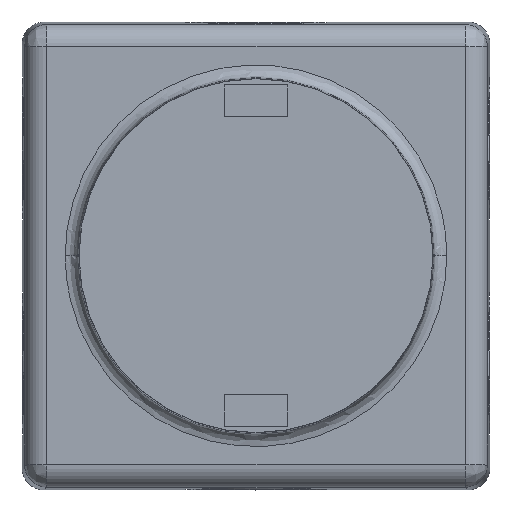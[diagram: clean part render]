
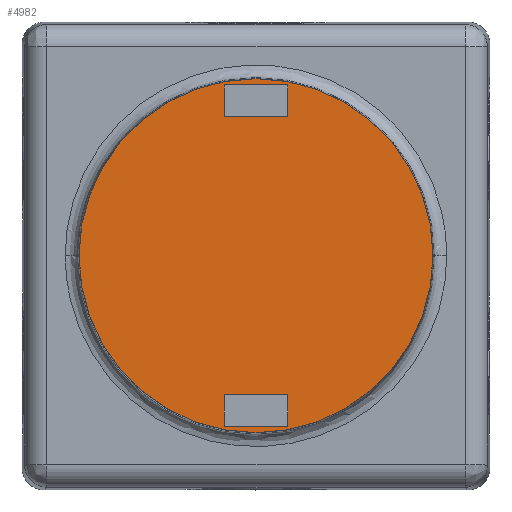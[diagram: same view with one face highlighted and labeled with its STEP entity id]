
A CAD part, top view. The second image highlights one B-rep face of the part: STEP entity #4982.
In plain terms, the highlighted planar face has unit normal (0, 0, 1) as drawn and (-1, 0, 0) by its records, which use the part's own axes.
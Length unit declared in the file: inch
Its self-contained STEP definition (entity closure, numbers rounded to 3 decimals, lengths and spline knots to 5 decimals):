
#77 = EDGE_CURVE ( 'NONE', #11966, #2711, #20078, .T. ) ;
#146 = VECTOR ( 'NONE', #16051, 39.37008 ) ;
#341 = CARTESIAN_POINT ( 'NONE',  ( 0., -0.875, 0. ) ) ;
#431 = ORIENTED_EDGE ( 'NONE', *, *, #7490, .T. ) ;
#706 = ORIENTED_EDGE ( 'NONE', *, *, #10727, .T. ) ;
#976 = AXIS2_PLACEMENT_3D ( 'NONE', #341, #9751, #15246 ) ;
#1111 = CARTESIAN_POINT ( 'NONE',  ( 0., 0., 0. ) ) ;
#1245 = ORIENTED_EDGE ( 'NONE', *, *, #77, .T. ) ;
#1532 = CARTESIAN_POINT ( 'NONE',  ( 0., -1.375, 0. ) ) ;
#2431 = CARTESIAN_POINT ( 'NONE',  ( 0., -0.875, 0.3125 ) ) ;
#2711 = VERTEX_POINT ( 'NONE', #10349 ) ;
#3340 = VERTEX_POINT ( 'NONE', #10627 ) ;
#3555 = ORIENTED_EDGE ( 'NONE', *, *, #20134, .T. ) ;
#3626 = VECTOR ( 'NONE', #15354, 39.37008 ) ;
#3823 = CARTESIAN_POINT ( 'NONE',  ( 0., -0.875, -0.3125 ) ) ;
#3932 = EDGE_LOOP ( 'NONE', ( #13226, #706 ) ) ;
#4047 = EDGE_CURVE ( 'NONE', #18520, #3340, #14664, .T. ) ;
#4227 = AXIS2_PLACEMENT_3D ( 'NONE', #1111, #17665, #19615 ) ;
#4557 = ORIENTED_EDGE ( 'NONE', *, *, #12548, .T. ) ;
#4671 = VERTEX_POINT ( 'NONE', #5181 ) ;
#4831 = PLANE ( 'NONE',  #976 ) ;
#4915 = DIRECTION ( 'NONE',  ( 0., 1., 0. ) ) ;
#4982 = ADVANCED_FACE ( 'NONE', ( #6019, #17680, #11488 ), #4831, .T. ) ;
#5180 = DIRECTION ( 'NONE',  ( 0., 0., 1. ) ) ;
#5181 = CARTESIAN_POINT ( 'NONE',  ( 0., 0., -1.75 ) ) ;
#5220 = VERTEX_POINT ( 'NONE', #17185 ) ;
#5676 = CARTESIAN_POINT ( 'NONE',  ( 0., 0., 0. ) ) ;
#6019 = FACE_BOUND ( 'NONE', #8121, .T. ) ;
#7161 = CARTESIAN_POINT ( 'NONE',  ( 0., 1.375, 0.3125 ) ) ;
#7223 = VECTOR ( 'NONE', #7895, 39.37008 ) ;
#7490 = EDGE_CURVE ( 'NONE', #7852, #18520, #8356, .T. ) ;
#7502 = CARTESIAN_POINT ( 'NONE',  ( 0., 1.6875, 0.3125 ) ) ;
#7852 = VERTEX_POINT ( 'NONE', #7502 ) ;
#7895 = DIRECTION ( 'NONE',  ( 0., 0., -1. ) ) ;
#8068 = VECTOR ( 'NONE', #4915, 39.37008 ) ;
#8121 = EDGE_LOOP ( 'NONE', ( #4557, #3555, #431, #10271 ) ) ;
#8356 = LINE ( 'NONE', #18141, #17028 ) ;
#8791 = VECTOR ( 'NONE', #11233, 39.37008 ) ;
#9227 = VERTEX_POINT ( 'NONE', #15166 ) ;
#9299 = CARTESIAN_POINT ( 'NONE',  ( 0., -1.6875, 0.3125 ) ) ;
#9373 = DIRECTION ( 'NONE',  ( 0., 0., -1. ) ) ;
#9468 = VERTEX_POINT ( 'NONE', #16612 ) ;
#9751 = DIRECTION ( 'NONE',  ( -1., 0., 0. ) ) ;
#9828 = LINE ( 'NONE', #1532, #8791 ) ;
#10173 = CARTESIAN_POINT ( 'NONE',  ( 0., 1.6875, 0. ) ) ;
#10271 = ORIENTED_EDGE ( 'NONE', *, *, #4047, .T. ) ;
#10349 = CARTESIAN_POINT ( 'NONE',  ( 0., -1.375, -0.3125 ) ) ;
#10627 = CARTESIAN_POINT ( 'NONE',  ( 0., 1.375, -0.3125 ) ) ;
#10727 = EDGE_CURVE ( 'NONE', #4671, #9468, #13649, .T. ) ;
#11233 = DIRECTION ( 'NONE',  ( 0., 0., 1. ) ) ;
#11488 = FACE_OUTER_BOUND ( 'NONE', #3932, .T. ) ;
#11620 = VERTEX_POINT ( 'NONE', #9299 ) ;
#11966 = VERTEX_POINT ( 'NONE', #15676 ) ;
#12548 = EDGE_CURVE ( 'NONE', #3340, #9227, #21446, .T. ) ;
#12708 = AXIS2_PLACEMENT_3D ( 'NONE', #5676, #20187, #5180 ) ;
#12806 = LINE ( 'NONE', #2431, #146 ) ;
#13226 = ORIENTED_EDGE ( 'NONE', *, *, #18050, .T. ) ;
#13396 = VECTOR ( 'NONE', #9373, 39.37008 ) ;
#13649 = CIRCLE ( 'NONE', #4227, 1.75 ) ;
#13682 = ORIENTED_EDGE ( 'NONE', *, *, #14318, .T. ) ;
#13764 = DIRECTION ( 'NONE',  ( 0., 1., 0. ) ) ;
#14318 = EDGE_CURVE ( 'NONE', #2711, #5220, #9828, .T. ) ;
#14664 = LINE ( 'NONE', #17914, #7223 ) ;
#15166 = CARTESIAN_POINT ( 'NONE',  ( 0., 1.6875, -0.3125 ) ) ;
#15246 = DIRECTION ( 'NONE',  ( 0., 0., 1. ) ) ;
#15354 = DIRECTION ( 'NONE',  ( 0., 0., 1. ) ) ;
#15676 = CARTESIAN_POINT ( 'NONE',  ( 0., -1.6875, -0.3125 ) ) ;
#15844 = EDGE_CURVE ( 'NONE', #5220, #11620, #12806, .T. ) ;
#16051 = DIRECTION ( 'NONE',  ( 0., -1., 0. ) ) ;
#16565 = CARTESIAN_POINT ( 'NONE',  ( 0., -0.875, -0.3125 ) ) ;
#16612 = CARTESIAN_POINT ( 'NONE',  ( 0., 0., 1.75 ) ) ;
#16725 = EDGE_LOOP ( 'NONE', ( #1245, #13682, #18913, #18657 ) ) ;
#17028 = VECTOR ( 'NONE', #19993, 39.37008 ) ;
#17185 = CARTESIAN_POINT ( 'NONE',  ( 0., -1.375, 0.3125 ) ) ;
#17665 = DIRECTION ( 'NONE',  ( -1., 0., 0. ) ) ;
#17680 = FACE_BOUND ( 'NONE', #16725, .T. ) ;
#17914 = CARTESIAN_POINT ( 'NONE',  ( 0., 1.375, 0. ) ) ;
#17916 = VECTOR ( 'NONE', #13764, 39.37008 ) ;
#18050 = EDGE_CURVE ( 'NONE', #9468, #4671, #19981, .T. ) ;
#18141 = CARTESIAN_POINT ( 'NONE',  ( 0., -0.875, 0.3125 ) ) ;
#18520 = VERTEX_POINT ( 'NONE', #7161 ) ;
#18657 = ORIENTED_EDGE ( 'NONE', *, *, #20185, .T. ) ;
#18913 = ORIENTED_EDGE ( 'NONE', *, *, #15844, .T. ) ;
#18941 = CARTESIAN_POINT ( 'NONE',  ( 0., -1.6875, 0. ) ) ;
#19615 = DIRECTION ( 'NONE',  ( 0., 0., 1. ) ) ;
#19981 = CIRCLE ( 'NONE', #12708, 1.75 ) ;
#19993 = DIRECTION ( 'NONE',  ( 0., -1., 0. ) ) ;
#20078 = LINE ( 'NONE', #3823, #17916 ) ;
#20134 = EDGE_CURVE ( 'NONE', #9227, #7852, #20152, .T. ) ;
#20152 = LINE ( 'NONE', #10173, #3626 ) ;
#20185 = EDGE_CURVE ( 'NONE', #11620, #11966, #20996, .T. ) ;
#20187 = DIRECTION ( 'NONE',  ( -1., 0., 0. ) ) ;
#20996 = LINE ( 'NONE', #18941, #13396 ) ;
#21446 = LINE ( 'NONE', #16565, #8068 ) ;
